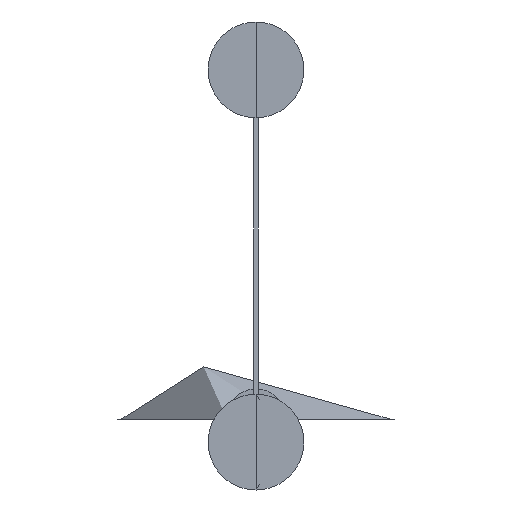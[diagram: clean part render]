
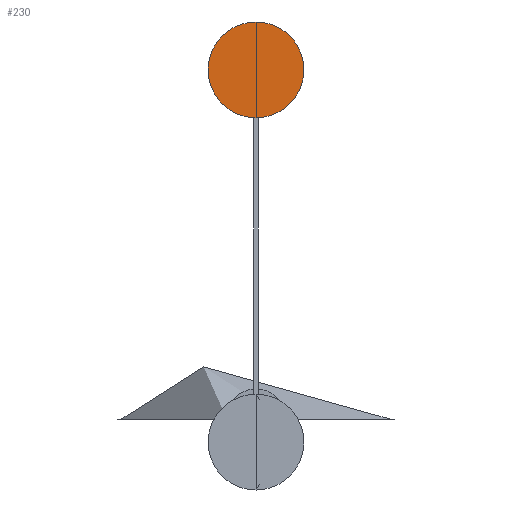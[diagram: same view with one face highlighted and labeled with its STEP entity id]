
A CAD part, top view. The second image highlights one B-rep face of the part: STEP entity #230.
In plain terms, the highlighted planar face has unit normal (0, 0, 1).
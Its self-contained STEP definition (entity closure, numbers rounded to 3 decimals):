
#63=PLANE('',#1028);
#230=ADVANCED_FACE('',(#276),#63,.T.);
#276=FACE_OUTER_BOUND('',#325,.T.);
#325=EDGE_LOOP('',(#493,#494));
#493=ORIENTED_EDGE('',*,*,#651,.T.);
#494=ORIENTED_EDGE('',*,*,#652,.T.);
#651=EDGE_CURVE('',#931,#932,#786,.T.);
#652=EDGE_CURVE('',#932,#931,#787,.T.);
#786=(
BOUNDED_CURVE()
B_SPLINE_CURVE(2,(#2607,#2608,#2609,#2610,#2611),.UNSPECIFIED.,.F.,.F.)
B_SPLINE_CURVE_WITH_KNOTS((3,2,3),(-17.047,-12.785,
-8.523),.UNSPECIFIED.)
CURVE()
GEOMETRIC_REPRESENTATION_ITEM()
RATIONAL_B_SPLINE_CURVE((1.,0.707,1.,0.707,
1.))
REPRESENTATION_ITEM('')
);
#787=(
BOUNDED_CURVE()
B_SPLINE_CURVE(2,(#2612,#2613,#2614,#2615,#2616),.UNSPECIFIED.,.F.,.F.)
B_SPLINE_CURVE_WITH_KNOTS((3,2,3),(-8.523,-4.262,0.),
 .UNSPECIFIED.)
CURVE()
GEOMETRIC_REPRESENTATION_ITEM()
RATIONAL_B_SPLINE_CURVE((1.,0.707,1.,0.707,
1.))
REPRESENTATION_ITEM('')
);
#931=VERTEX_POINT('',#2605);
#932=VERTEX_POINT('',#2606);
#1028=AXIS2_PLACEMENT_3D('',#2604,#1053,$);
#1053=DIRECTION('',(0.,0.,1.));
#2604=CARTESIAN_POINT('',(-79.018,522.982,601.608));
#2605=CARTESIAN_POINT('',(0.,667.819,601.608));
#2606=CARTESIAN_POINT('',(0.,536.181,601.608));
#2607=CARTESIAN_POINT('',(0.,667.819,601.608));
#2608=CARTESIAN_POINT('',(-65.819,667.819,601.608));
#2609=CARTESIAN_POINT('',(-65.819,602.,601.608));
#2610=CARTESIAN_POINT('',(-65.819,536.181,601.608));
#2611=CARTESIAN_POINT('',(0.,536.181,601.608));
#2612=CARTESIAN_POINT('',(0.,536.181,601.608));
#2613=CARTESIAN_POINT('',(65.819,536.181,601.608));
#2614=CARTESIAN_POINT('',(65.819,602.,601.608));
#2615=CARTESIAN_POINT('',(65.819,667.819,601.608));
#2616=CARTESIAN_POINT('',(0.,667.819,601.608));
